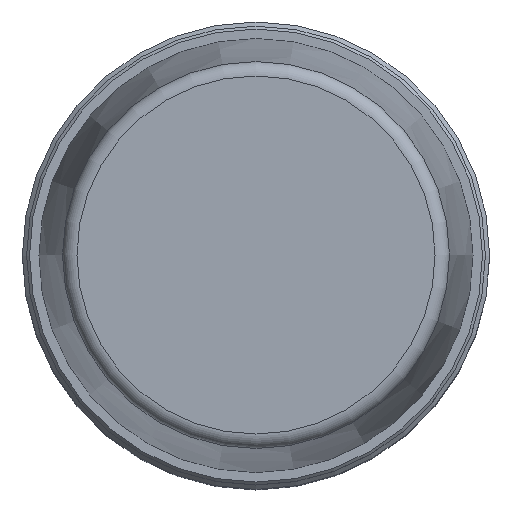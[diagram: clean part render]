
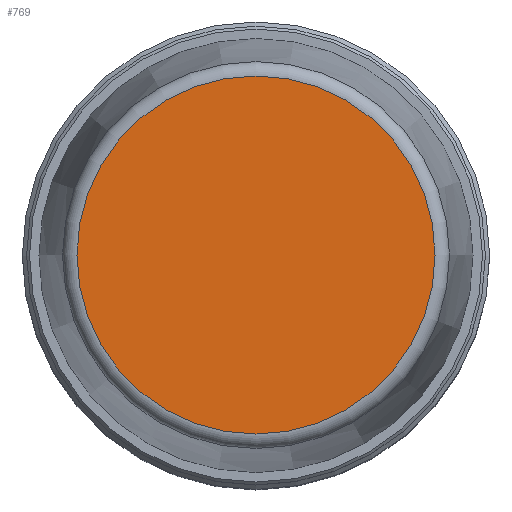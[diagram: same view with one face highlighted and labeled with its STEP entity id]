
A CAD part, top view. The second image highlights one B-rep face of the part: STEP entity #769.
In plain terms, the highlighted planar face has unit normal (0, 0, 1).
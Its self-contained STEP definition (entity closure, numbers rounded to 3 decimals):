
#68=PLANE('',#902);
#103=FACE_OUTER_BOUND('',#155,.T.);
#155=EDGE_LOOP('',(#668,#669));
#282=CIRCLE('',#903,6.167);
#283=CIRCLE('',#904,6.167);
#367=VERTEX_POINT('',#1410);
#368=VERTEX_POINT('',#1411);
#472=EDGE_CURVE('',#367,#368,#282,.T.);
#473=EDGE_CURVE('',#368,#367,#283,.T.);
#668=ORIENTED_EDGE('',*,*,#472,.T.);
#669=ORIENTED_EDGE('',*,*,#473,.T.);
#769=ADVANCED_FACE('',(#103),#68,.T.);
#902=AXIS2_PLACEMENT_3D('',#1409,#1156,#1157);
#903=AXIS2_PLACEMENT_3D('',#1412,#1158,#1159);
#904=AXIS2_PLACEMENT_3D('',#1413,#1160,#1161);
#1156=DIRECTION('center_axis',(0.,0.,1.));
#1157=DIRECTION('ref_axis',(1.,0.,0.));
#1158=DIRECTION('center_axis',(0.,0.,1.));
#1159=DIRECTION('ref_axis',(1.,0.,0.));
#1160=DIRECTION('center_axis',(0.,0.,1.));
#1161=DIRECTION('ref_axis',(1.,0.,0.));
#1409=CARTESIAN_POINT('Origin',(0.,0.,27.5));
#1410=CARTESIAN_POINT('',(6.167,0.,27.5));
#1411=CARTESIAN_POINT('',(-6.167,0.,27.5));
#1412=CARTESIAN_POINT('Origin',(0.,0.,27.5));
#1413=CARTESIAN_POINT('Origin',(0.,0.,27.5));
